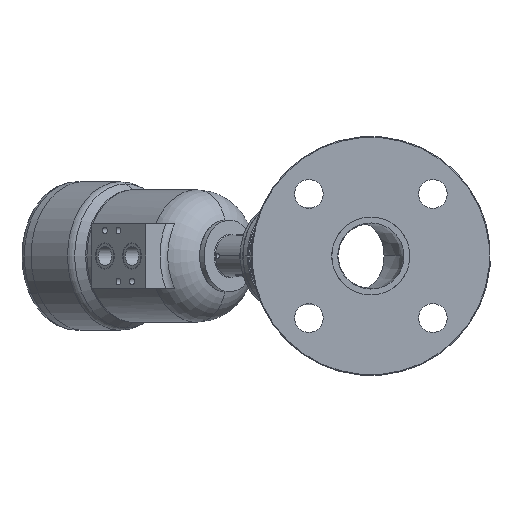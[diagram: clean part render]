
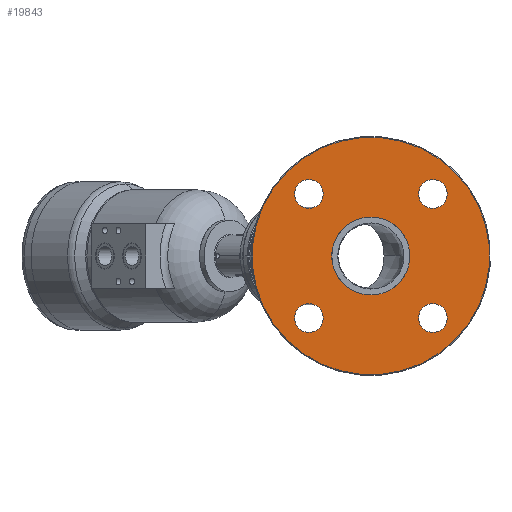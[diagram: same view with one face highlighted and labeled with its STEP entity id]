
A CAD part, left-side view. The second image highlights one B-rep face of the part: STEP entity #19843.
In plain terms, the highlighted planar face has unit normal (-1, 0, 0).
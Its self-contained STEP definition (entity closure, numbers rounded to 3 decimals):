
#15 = CARTESIAN_POINT ( 'NONE',  ( -72., 0., 0. ) ) ;
#40 = VERTEX_POINT ( 'NONE', #15849 ) ;
#64 = ORIENTED_EDGE ( 'NONE', *, *, #21949, .F. ) ;
#250 = EDGE_CURVE ( 'NONE', #6895, #18278, #9259, .T. ) ;
#359 = EDGE_CURVE ( 'NONE', #15723, #9188, #8057, .T. ) ;
#923 = DIRECTION ( 'NONE',  ( -1., 0., 0. ) ) ;
#1018 = CARTESIAN_POINT ( 'NONE',  ( -72., -32.527, 32.527 ) ) ;
#1023 = AXIS2_PLACEMENT_3D ( 'NONE', #13131, #1665, #15085 ) ;
#1069 = CIRCLE ( 'NONE', #1618, 74.5 ) ;
#1226 = AXIS2_PLACEMENT_3D ( 'NONE', #18039, #6573, #19965 ) ;
#1618 = AXIS2_PLACEMENT_3D ( 'NONE', #4927, #18287, #6822 ) ;
#1665 = DIRECTION ( 'NONE',  ( -1., 0., 0. ) ) ;
#1993 = DIRECTION ( 'NONE',  ( 0., -0.707, 0.707 ) ) ;
#2033 = AXIS2_PLACEMENT_3D ( 'NONE', #4120, #17497, #6039 ) ;
#2627 = CARTESIAN_POINT ( 'NONE',  ( -72., -38.891, 38.891 ) ) ;
#2892 = VERTEX_POINT ( 'NONE', #1018 ) ;
#3146 = CIRCLE ( 'NONE', #19312, 9. ) ;
#3484 = VERTEX_POINT ( 'NONE', #8280 ) ;
#3880 = VERTEX_POINT ( 'NONE', #16943 ) ;
#3938 = FACE_BOUND ( 'NONE', #19372, .T. ) ;
#4120 = CARTESIAN_POINT ( 'NONE',  ( -72., 0., 0. ) ) ;
#4424 = AXIS2_PLACEMENT_3D ( 'NONE', #9628, #23073, #11532 ) ;
#4551 = DIRECTION ( 'NONE',  ( 0., 0.707, -0.707 ) ) ;
#4827 = ORIENTED_EDGE ( 'NONE', *, *, #359, .F. ) ;
#4884 = EDGE_CURVE ( 'NONE', #24393, #19747, #17308, .T. ) ;
#4927 = CARTESIAN_POINT ( 'NONE',  ( -72., 0., 0. ) ) ;
#5442 = CARTESIAN_POINT ( 'NONE',  ( -72., 45.255, -45.255 ) ) ;
#6039 = DIRECTION ( 'NONE',  ( 0., -0.707, 0.707 ) ) ;
#6273 = ORIENTED_EDGE ( 'NONE', *, *, #250, .F. ) ;
#6573 = DIRECTION ( 'NONE',  ( -1., 0., 0. ) ) ;
#6822 = DIRECTION ( 'NONE',  ( 0., -0.707, 0.707 ) ) ;
#6890 = ORIENTED_EDGE ( 'NONE', *, *, #19809, .F. ) ;
#6895 = VERTEX_POINT ( 'NONE', #9864 ) ;
#7538 = CARTESIAN_POINT ( 'NONE',  ( -72., 52.679, -52.679 ) ) ;
#7805 = AXIS2_PLACEMENT_3D ( 'NONE', #2627, #16000, #4551 ) ;
#8057 = CIRCLE ( 'NONE', #9212, 24.5 ) ;
#8280 = CARTESIAN_POINT ( 'NONE',  ( -72., 32.527, 45.255 ) ) ;
#8318 = CARTESIAN_POINT ( 'NONE',  ( -72., -38.891, 38.891 ) ) ;
#8751 = CARTESIAN_POINT ( 'NONE',  ( -72., -45.255, -32.527 ) ) ;
#8978 = CIRCLE ( 'NONE', #7805, 9. ) ;
#9024 = FACE_BOUND ( 'NONE', #12693, .T. ) ;
#9188 = VERTEX_POINT ( 'NONE', #19790 ) ;
#9212 = AXIS2_PLACEMENT_3D ( 'NONE', #15, #13462, #1993 ) ;
#9234 = PLANE ( 'NONE',  #15305 ) ;
#9259 = CIRCLE ( 'NONE', #9419, 9. ) ;
#9419 = AXIS2_PLACEMENT_3D ( 'NONE', #12390, #923, #14350 ) ;
#9509 = CARTESIAN_POINT ( 'NONE',  ( -72., -52.679, 52.679 ) ) ;
#9618 = FACE_BOUND ( 'NONE', #22494, .T. ) ;
#9628 = CARTESIAN_POINT ( 'NONE',  ( -72., -38.891, -38.891 ) ) ;
#9864 = CARTESIAN_POINT ( 'NONE',  ( -72., 32.527, -32.527 ) ) ;
#9888 = EDGE_LOOP ( 'NONE', ( #64, #22477 ) ) ;
#10162 = AXIS2_PLACEMENT_3D ( 'NONE', #22430, #10910, #24429 ) ;
#10248 = DIRECTION ( 'NONE',  ( 0., 0.707, -0.707 ) ) ;
#10662 = DIRECTION ( 'NONE',  ( -1., 0., 0. ) ) ;
#10910 = DIRECTION ( 'NONE',  ( -1., 0., 0. ) ) ;
#10995 = DIRECTION ( 'NONE',  ( 0., -0.707, 0.707 ) ) ;
#11155 = DIRECTION ( 'NONE',  ( -1., 0., 0. ) ) ;
#11532 = DIRECTION ( 'NONE',  ( 0., 0.707, 0.707 ) ) ;
#11807 = AXIS2_PLACEMENT_3D ( 'NONE', #8318, #21738, #10248 ) ;
#12386 = ORIENTED_EDGE ( 'NONE', *, *, #23837, .F. ) ;
#12390 = CARTESIAN_POINT ( 'NONE',  ( -72., 38.891, -38.891 ) ) ;
#12693 = EDGE_LOOP ( 'NONE', ( #6273, #6890 ) ) ;
#12858 = VERTEX_POINT ( 'NONE', #7538 ) ;
#12883 = CIRCLE ( 'NONE', #1023, 9. ) ;
#13131 = CARTESIAN_POINT ( 'NONE',  ( -72., 38.891, 38.891 ) ) ;
#13462 = DIRECTION ( 'NONE',  ( -1., 0., 0. ) ) ;
#13794 = ORIENTED_EDGE ( 'NONE', *, *, #22237, .F. ) ;
#14153 = FACE_BOUND ( 'NONE', #17296, .T. ) ;
#14322 = CIRCLE ( 'NONE', #19327, 9. ) ;
#14350 = DIRECTION ( 'NONE',  ( 0., -0.707, 0.707 ) ) ;
#14742 = CIRCLE ( 'NONE', #10162, 9. ) ;
#15085 = DIRECTION ( 'NONE',  ( 0., -0.707, -0.707 ) ) ;
#15305 = AXIS2_PLACEMENT_3D ( 'NONE', #18626, #22518, #10995 ) ;
#15723 = VERTEX_POINT ( 'NONE', #19874 ) ;
#15849 = CARTESIAN_POINT ( 'NONE',  ( -72., 45.255, 32.527 ) ) ;
#16000 = DIRECTION ( 'NONE',  ( -1., 0., 0. ) ) ;
#16506 = VERTEX_POINT ( 'NONE', #9509 ) ;
#16776 = EDGE_CURVE ( 'NONE', #3484, #40, #3146, .T. ) ;
#16943 = CARTESIAN_POINT ( 'NONE',  ( -72., -45.255, 45.255 ) ) ;
#17296 = EDGE_LOOP ( 'NONE', ( #23727, #20362 ) ) ;
#17308 = CIRCLE ( 'NONE', #4424, 9. ) ;
#17497 = DIRECTION ( 'NONE',  ( -1., 0., 0. ) ) ;
#18039 = CARTESIAN_POINT ( 'NONE',  ( -72., 0., 0. ) ) ;
#18278 = VERTEX_POINT ( 'NONE', #5442 ) ;
#18287 = DIRECTION ( 'NONE',  ( -1., 0., 0. ) ) ;
#18626 = CARTESIAN_POINT ( 'NONE',  ( -72., 0., 0. ) ) ;
#19197 = FACE_OUTER_BOUND ( 'NONE', #21134, .T. ) ;
#19276 = ORIENTED_EDGE ( 'NONE', *, *, #4884, .F. ) ;
#19312 = AXIS2_PLACEMENT_3D ( 'NONE', #22669, #11155, #24661 ) ;
#19327 = AXIS2_PLACEMENT_3D ( 'NONE', #22180, #10662, #24167 ) ;
#19372 = EDGE_LOOP ( 'NONE', ( #13794, #4827 ) ) ;
#19747 = VERTEX_POINT ( 'NONE', #8751 ) ;
#19790 = CARTESIAN_POINT ( 'NONE',  ( -72., 17.324, -17.324 ) ) ;
#19809 = EDGE_CURVE ( 'NONE', #18278, #6895, #14742, .T. ) ;
#19843 = ADVANCED_FACE ( 'NONE', ( #19197, #9618, #24395, #14153, #9024, #3938 ), #9234, .T. ) ;
#19874 = CARTESIAN_POINT ( 'NONE',  ( -72., -17.324, 17.324 ) ) ;
#19965 = DIRECTION ( 'NONE',  ( 0., -0.707, 0.707 ) ) ;
#20055 = CIRCLE ( 'NONE', #11807, 9. ) ;
#20176 = ORIENTED_EDGE ( 'NONE', *, *, #22600, .T. ) ;
#20362 = ORIENTED_EDGE ( 'NONE', *, *, #20600, .F. ) ;
#20600 = EDGE_CURVE ( 'NONE', #40, #3484, #12883, .T. ) ;
#21134 = EDGE_LOOP ( 'NONE', ( #24155, #20176 ) ) ;
#21223 = EDGE_CURVE ( 'NONE', #2892, #3880, #8978, .T. ) ;
#21738 = DIRECTION ( 'NONE',  ( -1., 0., 0. ) ) ;
#21949 = EDGE_CURVE ( 'NONE', #3880, #2892, #20055, .T. ) ;
#22180 = CARTESIAN_POINT ( 'NONE',  ( -72., -38.891, -38.891 ) ) ;
#22237 = EDGE_CURVE ( 'NONE', #9188, #15723, #24926, .T. ) ;
#22430 = CARTESIAN_POINT ( 'NONE',  ( -72., 38.891, -38.891 ) ) ;
#22477 = ORIENTED_EDGE ( 'NONE', *, *, #21223, .F. ) ;
#22494 = EDGE_LOOP ( 'NONE', ( #12386, #19276 ) ) ;
#22518 = DIRECTION ( 'NONE',  ( -1., 0., 0. ) ) ;
#22600 = EDGE_CURVE ( 'NONE', #16506, #12858, #24614, .T. ) ;
#22669 = CARTESIAN_POINT ( 'NONE',  ( -72., 38.891, 38.891 ) ) ;
#23073 = DIRECTION ( 'NONE',  ( -1., 0., 0. ) ) ;
#23228 = CARTESIAN_POINT ( 'NONE',  ( -72., -32.527, -45.255 ) ) ;
#23727 = ORIENTED_EDGE ( 'NONE', *, *, #16776, .F. ) ;
#23837 = EDGE_CURVE ( 'NONE', #19747, #24393, #14322, .T. ) ;
#24155 = ORIENTED_EDGE ( 'NONE', *, *, #24760, .T. ) ;
#24167 = DIRECTION ( 'NONE',  ( 0., 0.707, 0.707 ) ) ;
#24393 = VERTEX_POINT ( 'NONE', #23228 ) ;
#24395 = FACE_BOUND ( 'NONE', #9888, .T. ) ;
#24429 = DIRECTION ( 'NONE',  ( 0., -0.707, 0.707 ) ) ;
#24614 = CIRCLE ( 'NONE', #1226, 74.5 ) ;
#24661 = DIRECTION ( 'NONE',  ( 0., -0.707, -0.707 ) ) ;
#24760 = EDGE_CURVE ( 'NONE', #12858, #16506, #1069, .T. ) ;
#24926 = CIRCLE ( 'NONE', #2033, 24.5 ) ;
